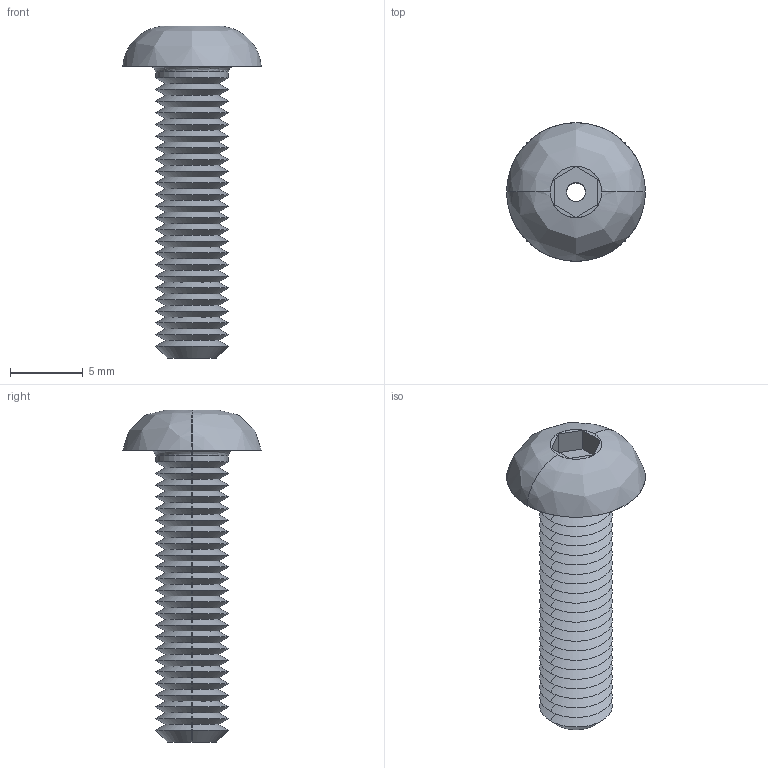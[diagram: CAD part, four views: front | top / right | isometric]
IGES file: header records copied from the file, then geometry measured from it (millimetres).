
Start section: SolidWorks IGES file using analytic representation for surfaces
Global section: file name: C:\Users\liam_\OneDrive\Documents\WORK\Work for WixRoyd\Job Files\J-00019 - Matt Davis CAD Checking\04. CAD Drawings\automotion20190605\P0094_v2\P0094_v2_20190712_IGES\P0094.050-020-A2.igs; native system: SolidWorks 2017; preprocessor: SolidWorks 2017; author: liam_; date: 190712.175418; units: millimetre
Bounding box: 9.5 x 9.5 x 22.75 mm (x, y, z)
Surface area: 794.2 mm2 (no closed solid volume)
Topology: 0 solids, 0 shells, 112 faces, 604 edges, 604 vertices
Faces by surface type: revolution 98, bspline 14
